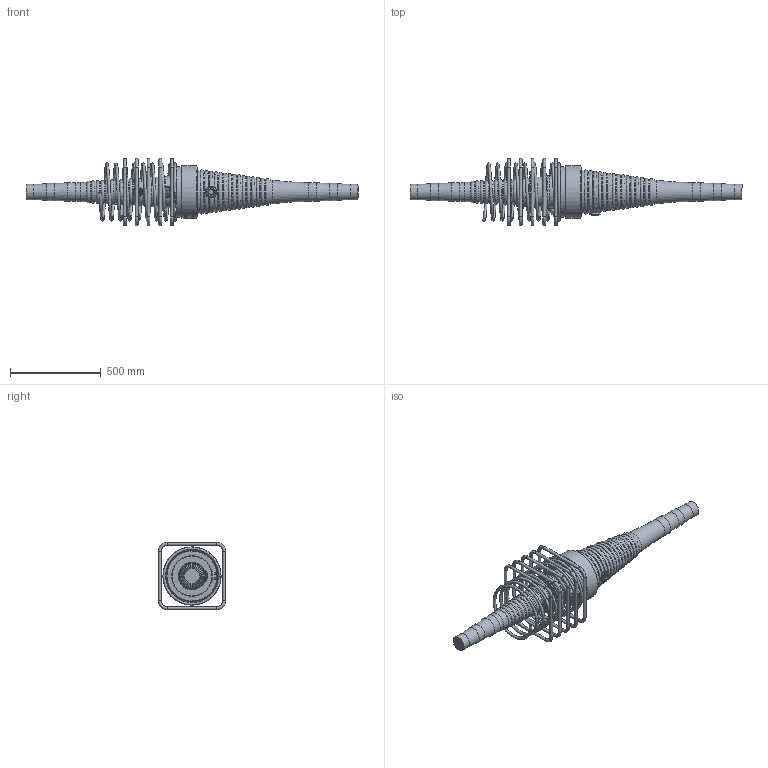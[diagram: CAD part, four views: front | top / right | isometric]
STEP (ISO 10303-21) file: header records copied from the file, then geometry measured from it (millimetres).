
FILE_DESCRIPTION(/* description */ (''),/* implementation_level */ '2;1');
FILE_NAME(/* name */ 'BBR VT CONA CMI BT 1606_Coupler K Assembly_CS-34,28.stp',/* time_stamp */ '2025-05-14T11:35:13+02:00',/* author */ ('tk'),/* organization */ (''),/* preprocessor_version */ 'ST-DEVELOPER v20',/* originating_system */ 'Autodesk Inventor 2024',/* authorisation */ '');
FILE_SCHEMA (('AUTOMOTIVE_DESIGN { 1 0 10303 214 3 1 1 }'));
Products named in the file (1): BBR VT CONA CMI BT 1606_Coupler K Assembly_CS-34,28
Bounding box: 1830.13 x 370 x 370 mm (x, y, z)
Volume: 37298364.6 mm3; surface area: 1724602.1 mm2
Topology: 7 solids, 8 shells, 981 faces, 2610 edges, 1697 vertices
Faces by surface type: bspline 437, plane 264, torus 129, cylinder 107, cone 34, sphere 10
Full cylindrical faces by diameter (mm): 16 x20, 34 x2, 57 x2, 84 x2, 94 x2, 104 x2, 164 x1, 218 x1, 223.017 x1, 273 x1, 280 x1, 286 x1, 290 x1
Entity records: 46231 total; most frequent: CARTESIAN_POINT 23790, ORIENTED_EDGE 5200, DIRECTION 3574, EDGE_CURVE 2600, VERTEX_POINT 1697, AXIS2_PLACEMENT_3D 1318, EDGE_LOOP 1055, FACE_OUTER_BOUND 981
